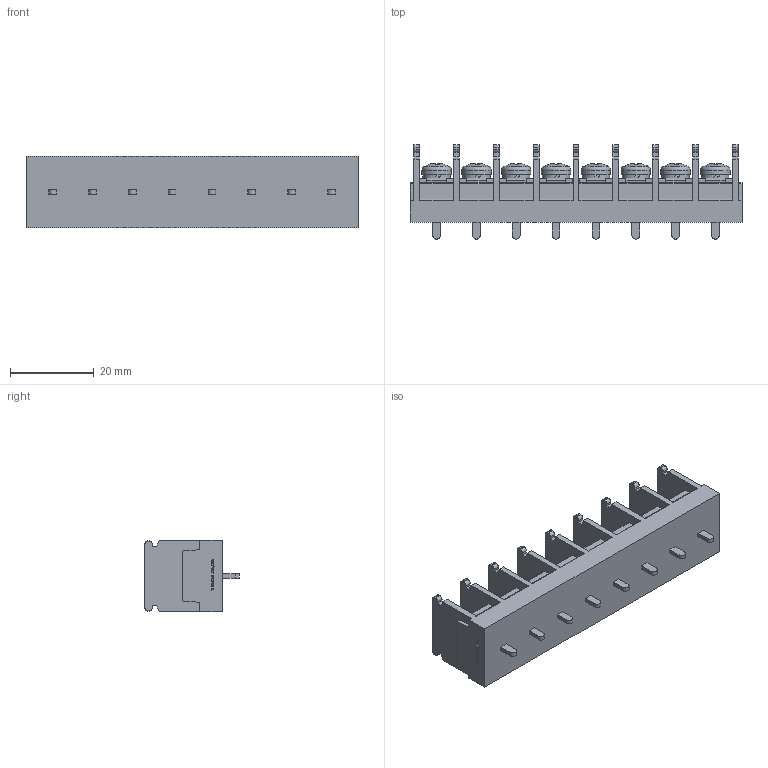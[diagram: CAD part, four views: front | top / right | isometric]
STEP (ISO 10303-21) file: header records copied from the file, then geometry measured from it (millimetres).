
FILE_DESCRIPTION(/* description */ ('Alibre Inc.'),/* implementation_level */ '2;1');
FILE_NAME(/* name */ 'export-F4714224-17C7-431D-AF9D-626EA923F06C',/* time_stamp */ '2020-11-04T18:15:08+09:00',/* author */ (''),/* organization */ (''),/* preprocessor_version */ 'ST-DEVELOPER v17',/* originating_system */ 'Alibre',/* authorisation */ '');
FILE_SCHEMA (('CONFIG_CONTROL_DESIGN'));
Length unit declared in the file: millimetre
Bounding box: 79.2 x 22.5 x 17 mm (x, y, z)
Volume: 14589.9 mm3; surface area: 9619.7 mm2
Topology: 1 solids, 25 shells, 1064 faces, 2886 edges, 1916 vertices
Faces by surface type: plane 764, cylinder 132, bspline 104, cone 40, torus 16, sphere 8
Full cylindrical faces by diameter (mm): 4 x16, 6.5 x8, 7 x8
Entity records: 32123 total; most frequent: CARTESIAN_POINT 6878, ORIENTED_EDGE 5612, DIRECTION 4150, EDGE_CURVE 2806, VECTOR 1974, LINE 1974, VERTEX_POINT 1884, AXIS2_PLACEMENT_3D 1452
